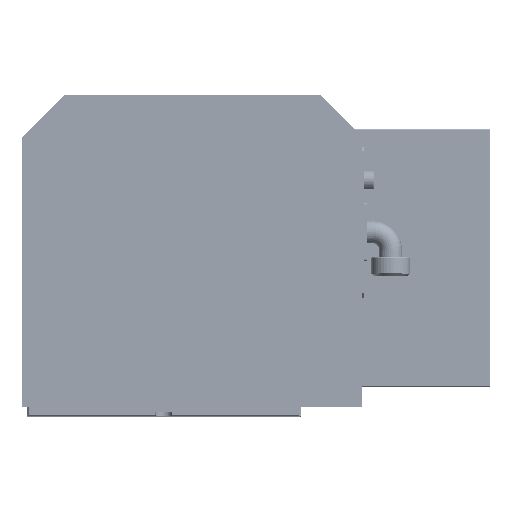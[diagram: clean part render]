
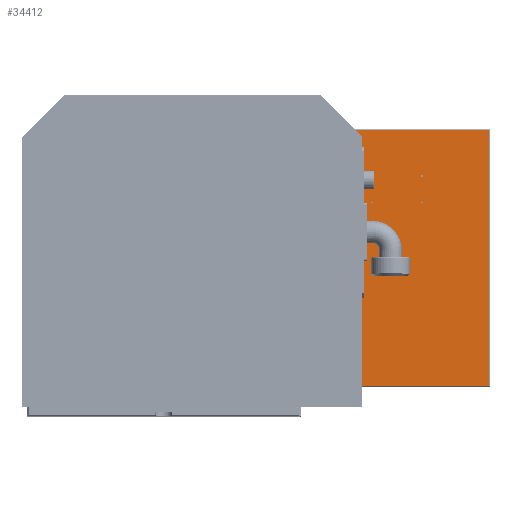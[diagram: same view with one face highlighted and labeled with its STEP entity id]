
A CAD part, top view. The second image highlights one B-rep face of the part: STEP entity #34412.
In plain terms, the highlighted planar face has unit normal (0, 0, 1).
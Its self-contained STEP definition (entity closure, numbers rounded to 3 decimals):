
#3922 = CARTESIAN_POINT ( 'NONE',  ( 250.37, 107.112, 355.178 ) ) ;
#4470 = AXIS2_PLACEMENT_3D ( 'NONE', #76544, #77080, #12268 ) ;
#4840 = CARTESIAN_POINT ( 'NONE',  ( 321.37, 157.112, 355.178 ) ) ;
#5414 = DIRECTION ( 'NONE',  ( 0., 1., 0. ) ) ;
#5438 = VECTOR ( 'NONE', #95070, 1000. ) ;
#5686 = CARTESIAN_POINT ( 'NONE',  ( 250.37, 109.112, 355.178 ) ) ;
#7027 = ORIENTED_EDGE ( 'NONE', *, *, #32801, .F. ) ;
#7229 = LINE ( 'NONE', #70958, #58978 ) ;
#7303 = VERTEX_POINT ( 'NONE', #80290 ) ;
#8619 = DIRECTION ( 'NONE',  ( 0., 0., 1. ) ) ;
#8710 = CIRCLE ( 'NONE', #88686, 1. ) ;
#10351 = VECTOR ( 'NONE', #54319, 1000. ) ;
#10413 = DIRECTION ( 'NONE',  ( 0., -1., 0. ) ) ;
#11301 = CARTESIAN_POINT ( 'NONE',  ( 197.37, 79.112, 355.178 ) ) ;
#11498 = VECTOR ( 'NONE', #90028, 1000. ) ;
#11544 = VERTEX_POINT ( 'NONE', #74194 ) ;
#11595 = EDGE_CURVE ( 'NONE', #101012, #70992, #91977, .T. ) ;
#11923 = ORIENTED_EDGE ( 'NONE', *, *, #13545, .F. ) ;
#12268 = DIRECTION ( 'NONE',  ( 0., -1., 0. ) ) ;
#13545 = EDGE_CURVE ( 'NONE', #22370, #42489, #17586, .T. ) ;
#15185 = DIRECTION ( 'NONE',  ( 0., -1., 0. ) ) ;
#16060 = DIRECTION ( 'NONE',  ( 0., -1., 0. ) ) ;
#16804 = CARTESIAN_POINT ( 'NONE',  ( 250.37, 80.112, 355.178 ) ) ;
#17586 = CIRCLE ( 'NONE', #104548, 1. ) ;
#18066 = DIRECTION ( 'NONE',  ( 0., 0., 1. ) ) ;
#20089 = LINE ( 'NONE', #22217, #10351 ) ;
#21251 = FACE_BOUND ( 'NONE', #88003, .T. ) ;
#22217 = CARTESIAN_POINT ( 'NONE',  ( 321.37, 158.112, 355.178 ) ) ;
#22370 = VERTEX_POINT ( 'NONE', #106677 ) ;
#22534 = LINE ( 'NONE', #48597, #11498 ) ;
#22844 = DIRECTION ( 'NONE',  ( 0., 0., -1. ) ) ;
#23629 = CIRCLE ( 'NONE', #98412, 1. ) ;
#24765 = AXIS2_PLACEMENT_3D ( 'NONE', #63386, #47072, #80301 ) ;
#27310 = CARTESIAN_POINT ( 'NONE',  ( 197.37, 108.112, 355.178 ) ) ;
#30146 = DIRECTION ( 'NONE',  ( 1., 0., 0. ) ) ;
#32308 = DIRECTION ( 'NONE',  ( 0., -1., 0. ) ) ;
#32801 = EDGE_CURVE ( 'NONE', #70992, #101012, #71655, .T. ) ;
#34412 = ADVANCED_FACE ( 'NONE', ( #62571, #70215, #95834, #21251, #73968 ), #89252, .F. ) ;
#37295 = VERTEX_POINT ( 'NONE', #72144 ) ;
#38582 = CARTESIAN_POINT ( 'NONE',  ( 322.37, 158.112, 355.178 ) ) ;
#40417 = CARTESIAN_POINT ( 'NONE',  ( 197.37, 80.112, 355.178 ) ) ;
#41697 = EDGE_CURVE ( 'NONE', #53902, #46544, #23629, .T. ) ;
#41892 = ORIENTED_EDGE ( 'NONE', *, *, #72437, .T. ) ;
#42489 = VERTEX_POINT ( 'NONE', #83992 ) ;
#43806 = CARTESIAN_POINT ( 'NONE',  ( 197.37, 81.112, 355.178 ) ) ;
#45706 = VERTEX_POINT ( 'NONE', #56951 ) ;
#46359 = DIRECTION ( 'NONE',  ( 0., -1., 0. ) ) ;
#46376 = EDGE_CURVE ( 'NONE', #45706, #7303, #70527, .T. ) ;
#46544 = VERTEX_POINT ( 'NONE', #5686 ) ;
#46732 = EDGE_CURVE ( 'NONE', #46544, #53902, #91558, .T. ) ;
#47072 = DIRECTION ( 'NONE',  ( 0., 0., 1. ) ) ;
#48597 = CARTESIAN_POINT ( 'NONE',  ( 322.37, 157.112, 355.178 ) ) ;
#48679 = DIRECTION ( 'NONE',  ( 0., 0., 1. ) ) ;
#49173 = EDGE_LOOP ( 'NONE', ( #88652, #101237, #41892, #77446 ) ) ;
#50065 = EDGE_LOOP ( 'NONE', ( #50997, #11923 ) ) ;
#50997 = ORIENTED_EDGE ( 'NONE', *, *, #86099, .F. ) ;
#53902 = VERTEX_POINT ( 'NONE', #3922 ) ;
#54319 = DIRECTION ( 'NONE',  ( 0., 1., 0. ) ) ;
#54714 = CARTESIAN_POINT ( 'NONE',  ( 117.37, 158.112, 355.178 ) ) ;
#56526 = CARTESIAN_POINT ( 'NONE',  ( 250.37, 80.112, 355.178 ) ) ;
#56951 = CARTESIAN_POINT ( 'NONE',  ( 197.37, 109.112, 355.178 ) ) ;
#58048 = EDGE_CURVE ( 'NONE', #11544, #37295, #7229, .T. ) ;
#58978 = VECTOR ( 'NONE', #30146, 1000. ) ;
#62571 = FACE_BOUND ( 'NONE', #50065, .T. ) ;
#63386 = CARTESIAN_POINT ( 'NONE',  ( 197.37, 80.112, 355.178 ) ) ;
#64620 = EDGE_LOOP ( 'NONE', ( #79641, #64864 ) ) ;
#64864 = ORIENTED_EDGE ( 'NONE', *, *, #46376, .F. ) ;
#65112 = EDGE_CURVE ( 'NONE', #7303, #45706, #8710, .T. ) ;
#66079 = EDGE_CURVE ( 'NONE', #67791, #11544, #77644, .T. ) ;
#67791 = VERTEX_POINT ( 'NONE', #82895 ) ;
#68884 = AXIS2_PLACEMENT_3D ( 'NONE', #38582, #22844, #5414 ) ;
#70215 = FACE_BOUND ( 'NONE', #76207, .T. ) ;
#70527 = CIRCLE ( 'NONE', #4470, 1. ) ;
#70862 = CARTESIAN_POINT ( 'NONE',  ( 250.37, 108.112, 355.178 ) ) ;
#70958 = CARTESIAN_POINT ( 'NONE',  ( 322.37, -113.888, 355.178 ) ) ;
#70992 = VERTEX_POINT ( 'NONE', #11301 ) ;
#71655 = CIRCLE ( 'NONE', #24765, 1. ) ;
#72144 = CARTESIAN_POINT ( 'NONE',  ( 321.37, -113.888, 355.178 ) ) ;
#72437 = EDGE_CURVE ( 'NONE', #37295, #104941, #20089, .T. ) ;
#73968 = FACE_OUTER_BOUND ( 'NONE', #49173, .T. ) ;
#74194 = CARTESIAN_POINT ( 'NONE',  ( 117.37, -113.888, 355.178 ) ) ;
#76207 = EDGE_LOOP ( 'NONE', ( #7027, #106478 ) ) ;
#76544 = CARTESIAN_POINT ( 'NONE',  ( 197.37, 108.112, 355.178 ) ) ;
#76959 = CIRCLE ( 'NONE', #104788, 1. ) ;
#77080 = DIRECTION ( 'NONE',  ( 0., 0., 1. ) ) ;
#77446 = ORIENTED_EDGE ( 'NONE', *, *, #94117, .T. ) ;
#77644 = LINE ( 'NONE', #54714, #5438 ) ;
#79317 = AXIS2_PLACEMENT_3D ( 'NONE', #70862, #104101, #46359 ) ;
#79641 = ORIENTED_EDGE ( 'NONE', *, *, #65112, .F. ) ;
#80290 = CARTESIAN_POINT ( 'NONE',  ( 197.37, 107.112, 355.178 ) ) ;
#80301 = DIRECTION ( 'NONE',  ( 0., -1., 0. ) ) ;
#82895 = CARTESIAN_POINT ( 'NONE',  ( 117.37, 157.112, 355.178 ) ) ;
#83992 = CARTESIAN_POINT ( 'NONE',  ( 250.37, 79.112, 355.178 ) ) ;
#84979 = AXIS2_PLACEMENT_3D ( 'NONE', #40417, #106897, #32308 ) ;
#86099 = EDGE_CURVE ( 'NONE', #42489, #22370, #76959, .T. ) ;
#86891 = ORIENTED_EDGE ( 'NONE', *, *, #41697, .F. ) ;
#88003 = EDGE_LOOP ( 'NONE', ( #86891, #89064 ) ) ;
#88652 = ORIENTED_EDGE ( 'NONE', *, *, #66079, .T. ) ;
#88686 = AXIS2_PLACEMENT_3D ( 'NONE', #27310, #18066, #10413 ) ;
#89064 = ORIENTED_EDGE ( 'NONE', *, *, #46732, .F. ) ;
#89252 = PLANE ( 'NONE',  #68884 ) ;
#89768 = DIRECTION ( 'NONE',  ( 0., -1., 0. ) ) ;
#89775 = DIRECTION ( 'NONE',  ( 0., 0., 1. ) ) ;
#90028 = DIRECTION ( 'NONE',  ( -1., 0., 0. ) ) ;
#91558 = CIRCLE ( 'NONE', #79317, 1. ) ;
#91977 = CIRCLE ( 'NONE', #84979, 1. ) ;
#94117 = EDGE_CURVE ( 'NONE', #104941, #67791, #22534, .T. ) ;
#95070 = DIRECTION ( 'NONE',  ( 0., -1., 0. ) ) ;
#95834 = FACE_BOUND ( 'NONE', #64620, .T. ) ;
#98412 = AXIS2_PLACEMENT_3D ( 'NONE', #107536, #48679, #16060 ) ;
#101012 = VERTEX_POINT ( 'NONE', #43806 ) ;
#101237 = ORIENTED_EDGE ( 'NONE', *, *, #58048, .T. ) ;
#104101 = DIRECTION ( 'NONE',  ( 0., 0., 1. ) ) ;
#104548 = AXIS2_PLACEMENT_3D ( 'NONE', #56526, #89775, #15185 ) ;
#104788 = AXIS2_PLACEMENT_3D ( 'NONE', #16804, #8619, #89768 ) ;
#104941 = VERTEX_POINT ( 'NONE', #4840 ) ;
#106478 = ORIENTED_EDGE ( 'NONE', *, *, #11595, .F. ) ;
#106677 = CARTESIAN_POINT ( 'NONE',  ( 250.37, 81.112, 355.178 ) ) ;
#106897 = DIRECTION ( 'NONE',  ( 0., 0., 1. ) ) ;
#107536 = CARTESIAN_POINT ( 'NONE',  ( 250.37, 108.112, 355.178 ) ) ;
